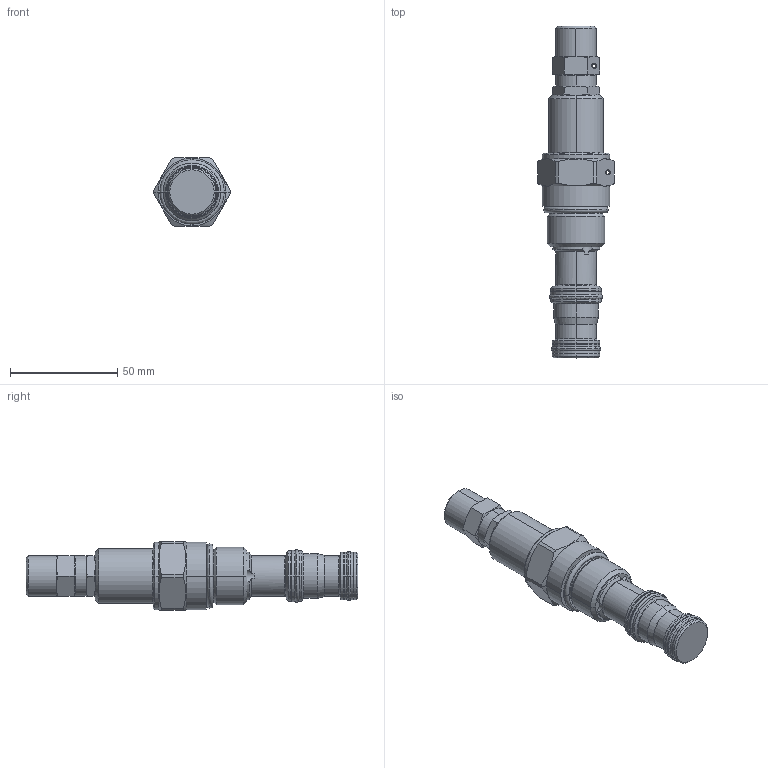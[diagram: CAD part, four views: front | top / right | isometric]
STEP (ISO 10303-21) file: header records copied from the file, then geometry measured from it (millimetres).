
FILE_DESCRIPTION((''),'2;1');
FILE_NAME('PRT0016','2009-03-25T',('JCS'),(''),'PRO/ENGINEER BY PARAMETRIC TECHNOLOGY CORPORATION, 2008510','PRO/ENGINEER BY PARAMETRIC TECHNOLOGY CORPORATION, 2008510','');
FILE_SCHEMA(('CONFIG_CONTROL_DESIGN'));
Length unit declared in the file: inch
Products named in the file (1): PRT0016
Bounding box: 35.81 x 154.5 x 31.75 mm (x, y, z)
Volume: 71281 mm3; surface area: 15923.9 mm2
Topology: 4 solids, 4 shells, 209 faces, 463 edges, 270 vertices
Faces by surface type: cylinder 62, cone 55, plane 37, torus 31, revolution 24
Entity records: 7524 total; most frequent: CARTESIAN_POINT 2878, DIRECTION 1000, ORIENTED_EDGE 926, EDGE_CURVE 463, AXIS2_PLACEMENT_3D 426, VERTEX_POINT 270, CIRCLE 241, EDGE_LOOP 227
